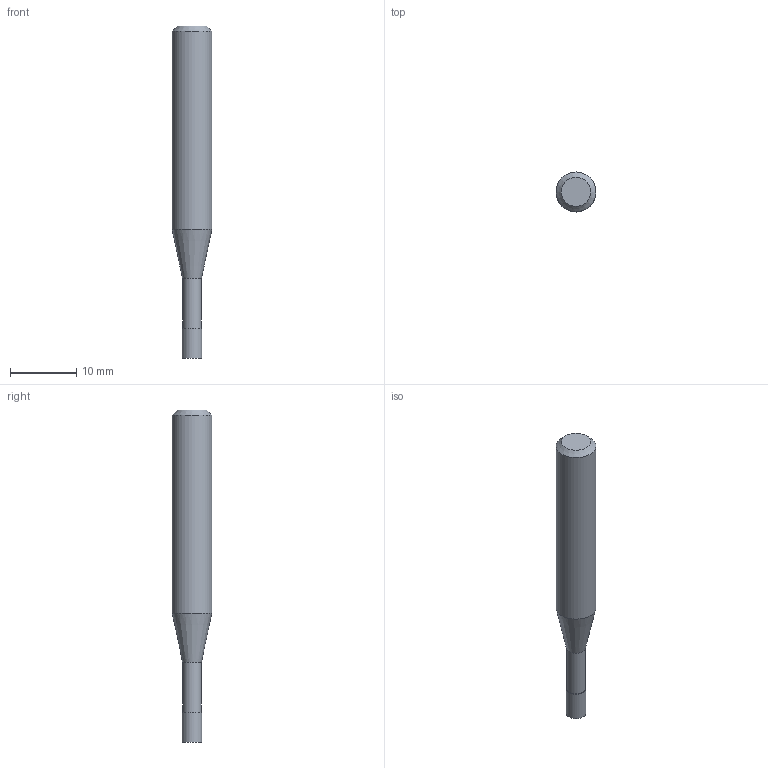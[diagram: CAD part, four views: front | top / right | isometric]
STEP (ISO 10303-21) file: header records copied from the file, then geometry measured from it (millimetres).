
FILE_DESCRIPTION((''),'2;1');
FILE_NAME('C:\Users\nsx150\AppData\Local\Temp\Mastercam 2021\17T8Q8S9EB\TEMP.step','2021-04-21T16:16:01',(''),(''),'STEP Write','Mastercam 2021 ... CNC Software, Inc.','');
FILE_SCHEMA(('AUTOMOTIVE_DESIGN'));
Length unit declared in the file: millimetre
Products named in the file (1): None
Bounding box: 6 x 6 x 50 mm (x, y, z)
Volume: 1057.8 mm3; surface area: 830.6 mm2
Topology: 2 solids, 2 shells, 9 faces, 12 edges, 7 vertices
Faces by surface type: plane 4, cylinder 3, cone 2
Full cylindrical faces by diameter (mm): 2.85 x1, 3 x1, 6 x1
Entity records: 211 total; most frequent: DIRECTION 36, CARTESIAN_POINT 25, AXIS2_PLACEMENT_3D 18, ORIENTED_EDGE 14, EDGE_LOOP 14, STYLED_ITEM 12, ADVANCED_FACE 9, FACE_BOUND 8
